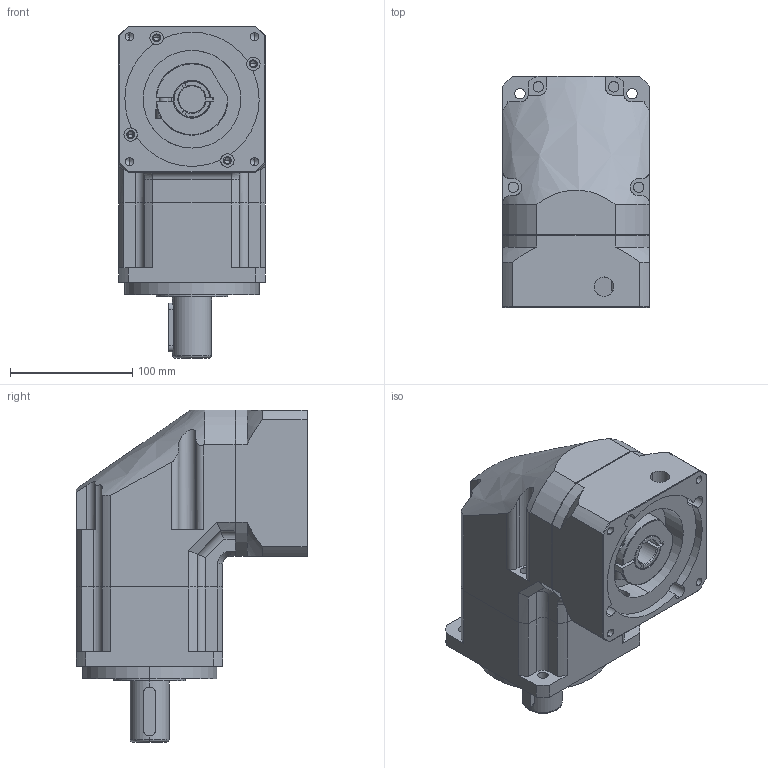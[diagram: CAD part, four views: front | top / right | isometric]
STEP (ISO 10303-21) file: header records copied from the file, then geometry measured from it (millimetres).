
FILE_DESCRIPTION (( 'STEP AP214' ), '1' );
FILE_NAME ('PXR120-L1.STEP', '2020-08-10T06:43:18', ( '' ), ( '' ), 'SwSTEP 2.0', 'SolidWorks 2014', '' );
FILE_SCHEMA (( 'AUTOMOTIVE_DESIGN' ));
Length unit declared in the file: millimetre
Products named in the file (8): PX120-本体齿圈; 邧埴瑩   10x8x40; GB／T70．1-2000   内六角圆柱头螺钉M8×20; PD120   坶踡遠_22; PDR120-HCZ; PXR120-L1; PDR120-LJ党蜊唳; PXR120-XT
Assembly tree (7 placements, depth 2):
  PXR120-L1
    PDR120-HCZ
    PD120   坶踡遠_22
    GB／T70．1-2000   内六角圆柱头螺钉M8×20
    邧埴瑩   10x8x40
    PX120-本体齿圈
    PXR120-XT
    PDR120-LJ党蜊唳
Bounding box: 120 x 189.5 x 272 mm (x, y, z)
Volume: 3210545.8 mm3; surface area: 259119.7 mm2
Topology: 7 solids, 7 shells, 368 faces, 950 edges, 604 vertices
Faces by surface type: cylinder 175, plane 127, cone 53, torus 8, sphere 4, bspline 1
Entity records: 12569 total; most frequent: CARTESIAN_POINT 2882, DIRECTION 1984, ORIENTED_EDGE 1864, EDGE_CURVE 932, AXIS2_PLACEMENT_3D 772, VERTEX_POINT 604, LINE 440, VECTOR 440
